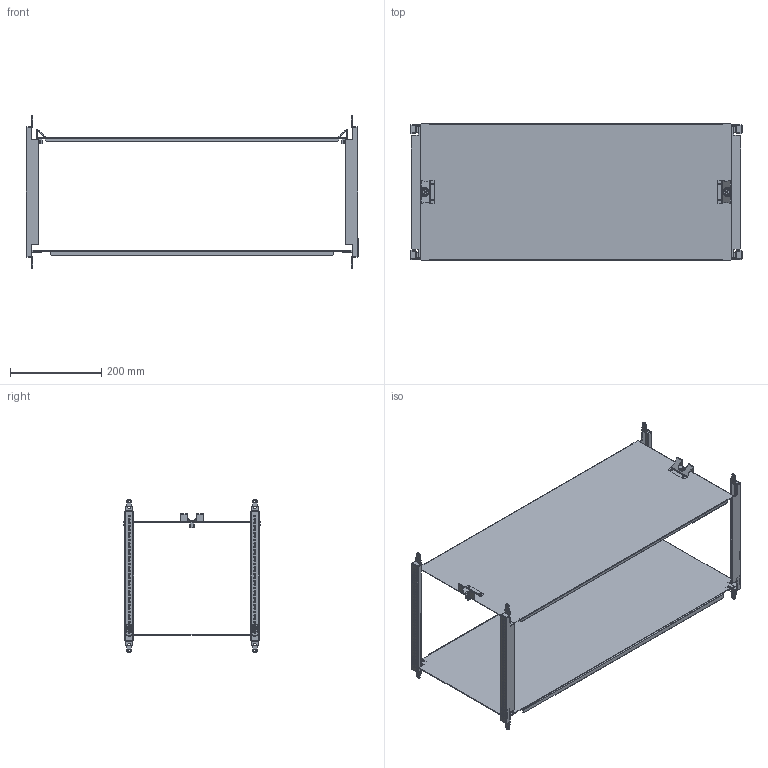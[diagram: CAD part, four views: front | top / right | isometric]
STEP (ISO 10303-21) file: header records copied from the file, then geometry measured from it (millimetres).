
FILE_DESCRIPTION(('CAx-IF Rec.Pracs.---Model Styling and Organization---1.2---2011-12-15','CAx-IF Rec.Pracs.---Geometric and Assembly Validation Properties---4.1---2014-06-16','CAx-IF Rec.Pracs.---PMI Polyline Presentation---2.0---2013-05-24'),'2;1');
FILE_NAME('R5PKIB0830.stp','2021-05-05T13:52:14+03:00',(''),(''),'STEP Interface 4.4 by CT CoreTechnologie','3D_Evolution4.4 by CT CoreTechnologie','');
FILE_SCHEMA(('AUTOMOTIVE_DESIGN { 1 0 10303 214 1 1 1 1 }'));
Length unit declared in the file: millimetre
Products named in the file (12): R5PKIB0830; 294-9118.00-00050(1); 294-9118.00-00050(2); RB.0376.00.00.0_-00; 294-9118.00-00050(3); RB.0586.00.00.0_-07; RB.0348.00.00.0_-00; RB.0329.00.00.0_-00; RB.0516.00.00.0 ÑÁ_-09; RB.0392.00.02.0_ª«¨­ç(1); RB.0516.00.01.0_-09; RB.0392.00.02.0_ª«¨­ç(2)
Assembly tree (19 placements, depth 3):
  R5PKIB0830
    294-9118.00-00050(1)
      294-9118.00-00050(2)
      RB.0376.00.00.0_-00
    294-9118.00-00050(3)
      294-9118.00-00050(2)
      RB.0376.00.00.0_-00
    RB.0586.00.00.0_-07
    RB.0348.00.00.0_-00  x4
    RB.0329.00.00.0_-00  x4
    RB.0516.00.00.0 ÑÁ_-09
      RB.0392.00.02.0_ª«¨­ç(1)
      RB.0516.00.01.0_-09
      RB.0392.00.02.0_ª«¨­ç(2)
Bounding box: 726 x 298 x 335 mm (x, y, z)
Surface area: 1015437.9 mm2 (no closed solid volume)
Topology: 0 solids, 48 shells, 1084 faces, 2866 edges, 1876 vertices
Faces by surface type: plane 532, cylinder 520, bspline 32
Entity records: 15178 total; most frequent: CARTESIAN_POINT 2745, DIRECTION 2469, ORIENTED_EDGE 2406, EDGE_CURVE 1203, VECTOR 857, LINE 857, AXIS2_PLACEMENT_3D 806, VERTEX_POINT 790
